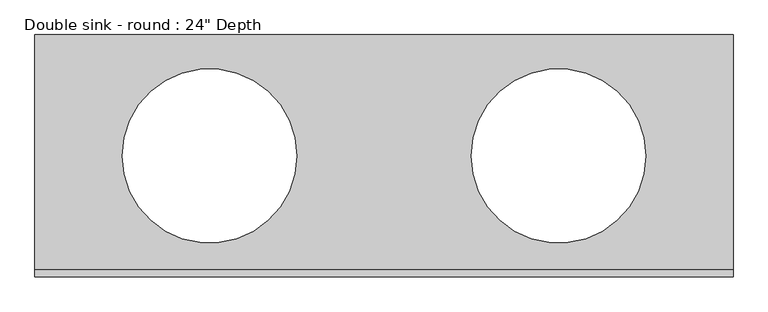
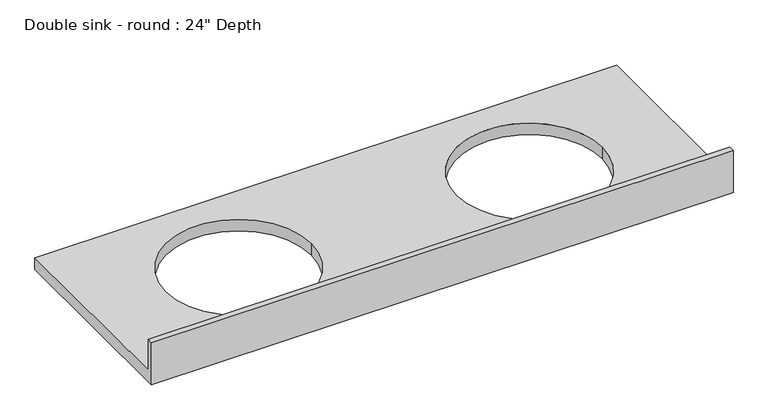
"""IFC4 building model written with IfcOpenShell, lengths in millimetres: furniture geometry."""

from ifc_helpers import new_model, si_unit, frame, origin, place, context, project, spatial, polyline, circle_curve, source, transform, mapped, element, save
from ifc_brep_helpers import plane_surface, revolved_surface, advanced_brep


def furniture_7a7a8658(model_context):
    return source(origin(), model_context, "Body", "AdvancedBrep", [
        advanced_brep(
        [(-1327.4622951, 635.0, 787.4), (-1327.4622951, 19.05, 787.4), (501.3377049, 19.05, 787.4), (501.3377049, 635.0, 787.4), (-641.6622951, 317.5, 787.4), (-1098.8622951, 317.5, 787.4), (272.7377049, 317.5, 787.4), (-184.4622951, 317.5, 787.4), (501.3377049, 0.0, 749.3), (-1327.4622951, 0.0, 749.3), (-1327.4622951, 635.0, 749.3), (501.3377049, 635.0, 749.3), (-1098.8622951, 317.5, 749.3), (-641.6622951, 317.5, 749.3), (-184.4622951, 317.5, 749.3), (272.7377049, 317.5, 749.3), (501.3377049, 0.0, 889.0), (-1327.4622951, 0.0, 889.0), (-1327.4622951, 19.05, 889.0), (501.3377049, 19.05, 889.0)],
        [
            (0, 1),
            (1, 2),
            (2, 3),
            (3, 0),
            (4, 5, circle_curve(frame((-870.2622951, 317.5, 787.4), z_axis=(0.0, 0.0, -1.0), x_axis=(1.0, 0.0, 0.0)), 228.6)),
            (5, 4, circle_curve(frame((-870.2622951, 317.5, 787.4), z_axis=(0.0, 0.0, -1.0), x_axis=(1.0, 0.0, 0.0)), 228.6)),
            (6, 7, circle_curve(frame((44.1377049, 317.5, 787.4), z_axis=(0.0, 0.0, -1.0), x_axis=(1.0, 0.0, 0.0)), 228.6)),
            (7, 6, circle_curve(frame((44.1377049, 317.5, 787.4), z_axis=(0.0, 0.0, -1.0), x_axis=(1.0, 0.0, 0.0)), 228.6)),
            (8, 9),
            (9, 10),
            (10, 11),
            (11, 8),
            (12, 13, circle_curve(frame((-870.2622951, 317.5, 749.3), z_axis=(0.0, 0.0, 1.0), x_axis=(1.0, 0.0, 0.0)), 228.6)),
            (13, 12, circle_curve(frame((-870.2622951, 317.5, 749.3), z_axis=(0.0, 0.0, 1.0), x_axis=(1.0, 0.0, 0.0)), 228.6)),
            (14, 15, circle_curve(frame((44.1377049, 317.5, 749.3), z_axis=(0.0, 0.0, 1.0), x_axis=(1.0, 0.0, 0.0)), 228.6)),
            (15, 14, circle_curve(frame((44.1377049, 317.5, 749.3), z_axis=(0.0, 0.0, 1.0), x_axis=(1.0, 0.0, 0.0)), 228.6)),
            (8, 16),
            (16, 17),
            (17, 9),
            (17, 18),
            (18, 1),
            (0, 10),
            (3, 11),
            (2, 19),
            (19, 16),
            (19, 18),
            (5, 12),
            (13, 4),
            (7, 14),
            (15, 6),
        ],
        [
            plane_surface(frame((-1327.4622951, 0.0, 787.4), z_axis=(0.0, 0.0, 1.0), x_axis=(-1.0, 0.0, 0.0))),
            plane_surface(frame((-1327.4622951, 0.0, 749.3), z_axis=(0.0, 0.0, -1.0), x_axis=(1.0, 0.0, 0.0))),
            plane_surface(frame((501.3377049, 0.0, 787.4), z_axis=(0.0, -1.0, 0.0), x_axis=(0.0, 0.0, -1.0))),
            plane_surface(frame((-1327.4622951, 0.0, 787.4), z_axis=(-1.0, 0.0, 0.0), x_axis=(0.0, 0.0, -1.0))),
            plane_surface(frame((-1327.4622951, 635.0, 787.4), z_axis=(0.0, 1.0, 0.0), x_axis=(0.0, 0.0, -1.0))),
            plane_surface(frame((501.3377049, 635.0, 787.4), z_axis=(1.0, 0.0, 0.0), x_axis=(0.0, 0.0, -1.0))),
            plane_surface(frame((-1327.4622951, 0.0, 889.0), z_axis=(0.0, 0.0, 1.0), x_axis=(0.0, 1.0, 0.0))),
            plane_surface(frame((-1327.4622951, 19.05, 889.0), z_axis=(0.0, 1.0, 0.0), x_axis=(0.0, 0.0, -1.0))),
            revolved_surface(polyline([(-641.6622950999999, 317.5, 787.4), (-641.6622950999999, 317.5, 749.3)]), (-870.2622951, 317.5, 749.3), (0.0, 0.0, 1.0)),
            revolved_surface(polyline([(272.7377049, 317.5, 787.4), (272.7377049, 317.5, 749.3)]), (44.1377049, 317.5, 749.3), (0.0, 0.0, 1.0)),
        ],
        [
            (0, [[1, 2, 3, 4], [5, 6], [7, 8]]),
            (1, [[9, 10, 11, 12], [13, 14], [15, 16]]),
            (2, [[17, 18, 19, -9]]),
            (3, [[-19, 20, 21, -1, 22, -10]]),
            (4, [[23, -11, -22, -4]]),
            (5, [[-23, -3, 24, 25, -17, -12]]),
            (6, [[-18, -25, 26, -20]]),
            (7, [[-24, -2, -21, -26]]),
            (8, [[-6, 27, -14, 28]]),
            (8, [[-13, -27, -5, -28]]),
            (9, [[-8, 29, -16, 30]]),
            (9, [[-15, -29, -7, -30]]),
        ],
    ),
    ])


if __name__ == "__main__":
    model = new_model("IFC4")
    model_context = context("Model", 3, world=origin())
    ifc_project = project(units=[si_unit("LENGTHUNIT", "METRE", prefix="MILLI")], contexts=[model_context])
    site = spatial("IfcSite", under=ifc_project)
    building = spatial("IfcBuilding", under=site)
    placement = place(None, origin())
    furniture_shape = furniture_7a7a8658(model_context)
    element("IfcFurniture", 1, ObjectType="Double sink - round : 24\" Depth", at=placement, inside=building, context=model_context, shape_type="MappedRepresentation", body=[
        mapped(furniture_shape, transform((0.0, 0.0, 0.0), x_axis=(1.0, 0.0, 0.0), y_axis=(0.0, 1.0, 0.0), z_axis=(0.0, 0.0, 1.0))),
    ])
    save(model, "model.ifc")
